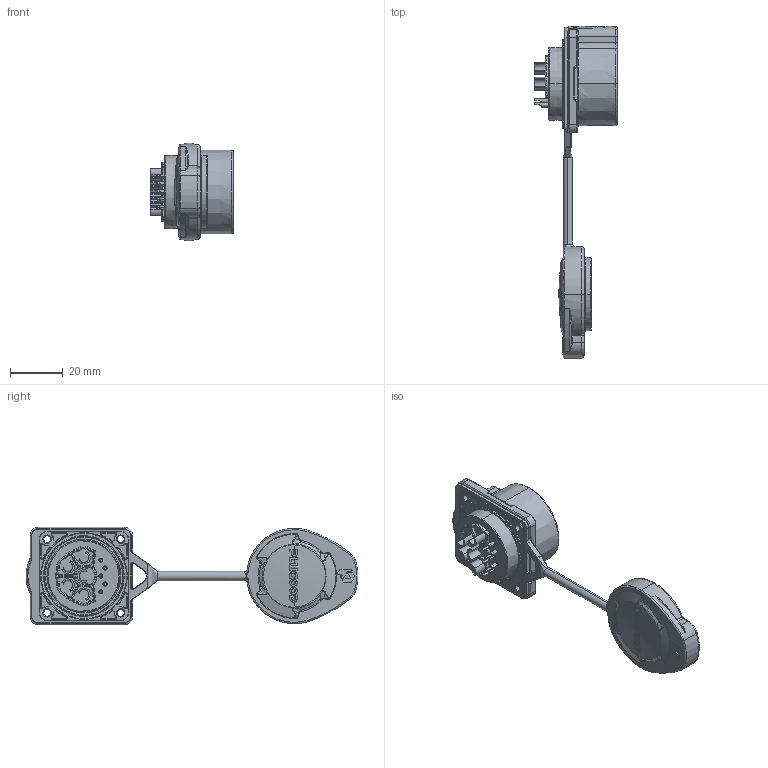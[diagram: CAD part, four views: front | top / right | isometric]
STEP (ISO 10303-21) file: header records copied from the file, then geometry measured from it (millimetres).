
FILE_DESCRIPTION (( 'STEP AP203' ), '1' );
FILE_NAME ('PLG28 5+5芯四孔安装插正装.STEP', '2026-03-17T08:52:48', ( '' ), ( '' ), 'SwSTEP 2.0', 'SolidWorks 2024', '' );
FILE_SCHEMA (( 'CONFIG_CONTROL_DESIGN' ));
Length unit declared in the file: millimetre
Products named in the file (1): PLG28 5+5芯四孔安装插正装
Bounding box: 31.4 x 126.27 x 37 mm (x, y, z)
Volume: 24148.2 mm3; surface area: 20560.8 mm2
Topology: 38 solids, 38 shells, 2117 faces, 5259 edges, 3256 vertices
Faces by surface type: cylinder 653, plane 582, torus 381, bspline 318, cone 159, sphere 24
Entity records: 73635 total; most frequent: CARTESIAN_POINT 25419, ORIENTED_EDGE 10410, DIRECTION 9698, EDGE_CURVE 5205, AXIS2_PLACEMENT_3D 3884, VERTEX_POINT 3256, EDGE_LOOP 2237, ADVANCED_FACE 2117
